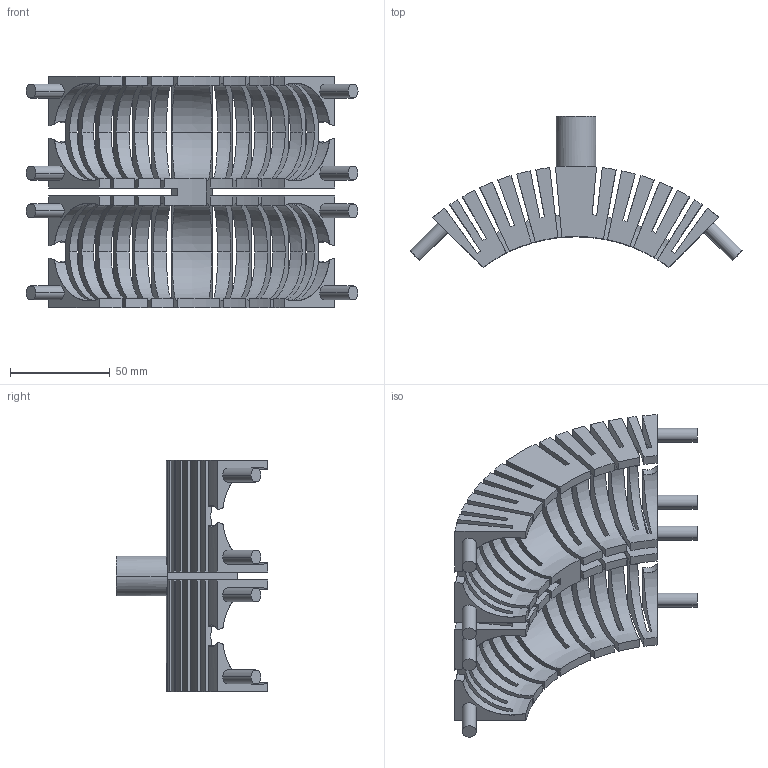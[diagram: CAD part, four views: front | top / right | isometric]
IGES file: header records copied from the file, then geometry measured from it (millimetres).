
Start section: IMSI TurboCAD v14.0
Global section: author: NULL; organization: NULL; date: 20231227.191052; units: millimetre
Bounding box: 166.08 x 75.62 x 116 mm (x, y, z)
Surface area: 88536.4 mm2 (no closed solid volume)
Topology: 0 solids, 0 shells, 249 faces, 1428 edges, 1428 vertices
Faces by surface type: revolution 146, extrusion 103
